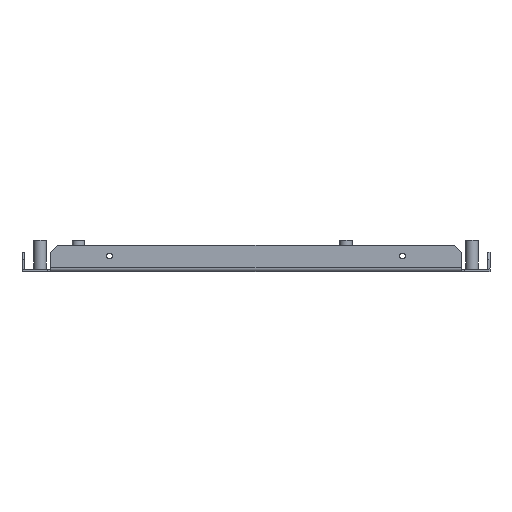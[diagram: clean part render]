
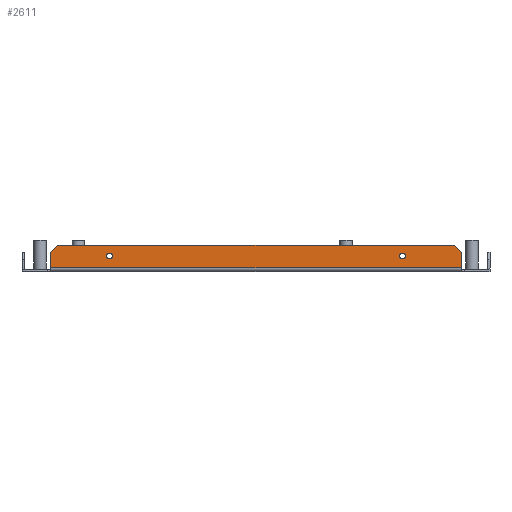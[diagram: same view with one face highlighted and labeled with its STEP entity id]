
A CAD part, front view. The second image highlights one B-rep face of the part: STEP entity #2611.
In plain terms, the highlighted planar face has unit normal (0, -1, 0).
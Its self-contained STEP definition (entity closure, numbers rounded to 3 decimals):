
#682=DIRECTION('',(-0.707,0.,-0.707));
#683=VECTOR('',#682,4.243);
#684=CARTESIAN_POINT('',(-82.5,-69.75,-3.598));
#685=LINE('',#684,#683);
#686=DIRECTION('',(-0.707,0.,0.707));
#687=VECTOR('',#686,4.243);
#688=CARTESIAN_POINT('',(85.5,-69.75,-6.598));
#689=LINE('',#688,#687);
#690=DIRECTION('',(-1.,0.,0.));
#691=VECTOR('',#690,171.);
#692=CARTESIAN_POINT('',(85.5,-69.75,-13.098));
#693=LINE('',#692,#691);
#694=CARTESIAN_POINT('',(-61.,-69.75,-8.098));
#695=DIRECTION('',(0.,1.,0.));
#696=DIRECTION('',(-1.,0.,0.));
#697=AXIS2_PLACEMENT_3D('',#694,#695,#696);
#699=CARTESIAN_POINT('',(-61.,-69.75,-8.098));
#700=DIRECTION('',(0.,1.,0.));
#701=DIRECTION('',(1.,0.,0.));
#702=AXIS2_PLACEMENT_3D('',#699,#700,#701);
#704=CARTESIAN_POINT('',(61.,-69.75,-8.098));
#705=DIRECTION('',(0.,1.,0.));
#706=DIRECTION('',(-1.,0.,0.));
#707=AXIS2_PLACEMENT_3D('',#704,#705,#706);
#709=CARTESIAN_POINT('',(61.,-69.75,-8.098));
#710=DIRECTION('',(0.,1.,0.));
#711=DIRECTION('',(1.,0.,0.));
#712=AXIS2_PLACEMENT_3D('',#709,#710,#711);
#735=DIRECTION('',(0.,0.,1.));
#736=VECTOR('',#735,6.5);
#737=CARTESIAN_POINT('',(85.5,-69.75,-13.098));
#738=LINE('',#737,#736);
#779=DIRECTION('',(0.,0.,-1.));
#780=VECTOR('',#779,6.5);
#781=CARTESIAN_POINT('',(-85.5,-69.75,-6.598));
#782=LINE('',#781,#780);
#834=DIRECTION('',(-1.,0.,0.));
#835=VECTOR('',#834,165.);
#836=CARTESIAN_POINT('',(82.5,-69.75,-3.598));
#837=LINE('',#836,#835);
#1442=CARTESIAN_POINT('',(-85.5,-69.75,-13.098));
#1444=VERTEX_POINT('',#1442);
#1445=CARTESIAN_POINT('',(85.5,-69.75,-13.098));
#1446=VERTEX_POINT('',#1445);
#1505=CARTESIAN_POINT('',(-82.5,-69.75,-3.598));
#1506=CARTESIAN_POINT('',(-85.5,-69.75,-6.598));
#1507=VERTEX_POINT('',#1505);
#1508=VERTEX_POINT('',#1506);
#1517=CARTESIAN_POINT('',(85.5,-69.75,-6.598));
#1518=VERTEX_POINT('',#1517);
#1519=CARTESIAN_POINT('',(82.5,-69.75,-3.598));
#1520=VERTEX_POINT('',#1519);
#1521=CARTESIAN_POINT('',(-62.25,-69.75,-8.098));
#1522=CARTESIAN_POINT('',(-59.75,-69.75,-8.098));
#1523=VERTEX_POINT('',#1521);
#1524=VERTEX_POINT('',#1522);
#1525=CARTESIAN_POINT('',(59.75,-69.75,-8.098));
#1526=CARTESIAN_POINT('',(62.25,-69.75,-8.098));
#1527=VERTEX_POINT('',#1525);
#1528=VERTEX_POINT('',#1526);
#2580=CARTESIAN_POINT('',(97.5,-69.75,-14.598));
#2581=DIRECTION('',(0.,-1.,0.));
#2582=DIRECTION('',(-1.,0.,0.));
#2583=AXIS2_PLACEMENT_3D('',#2580,#2581,#2582);
#2584=PLANE('',#2583);
#2586=ORIENTED_EDGE('',*,*,#2585,.F.);
#2588=ORIENTED_EDGE('',*,*,#2587,.F.);
#2590=ORIENTED_EDGE('',*,*,#2589,.F.);
#2592=ORIENTED_EDGE('',*,*,#2591,.F.);
#2594=ORIENTED_EDGE('',*,*,#2593,.T.);
#2596=ORIENTED_EDGE('',*,*,#2595,.F.);
#2597=EDGE_LOOP('',(#2586,#2588,#2590,#2592,#2594,#2596));
#2598=FACE_OUTER_BOUND('',#2597,.F.);
#2600=ORIENTED_EDGE('',*,*,#2599,.F.);
#2602=ORIENTED_EDGE('',*,*,#2601,.F.);
#2603=EDGE_LOOP('',(#2600,#2602));
#2604=FACE_BOUND('',#2603,.F.);
#2606=ORIENTED_EDGE('',*,*,#2605,.F.);
#2608=ORIENTED_EDGE('',*,*,#2607,.F.);
#2609=EDGE_LOOP('',(#2606,#2608));
#2610=FACE_BOUND('',#2609,.F.);
#698=CIRCLE('',#697,1.25);
#703=CIRCLE('',#702,1.25);
#708=CIRCLE('',#707,1.25);
#713=CIRCLE('',#712,1.25);
#2585=EDGE_CURVE('',#1507,#1508,#685,.T.);
#2587=EDGE_CURVE('',#1520,#1507,#837,.T.);
#2589=EDGE_CURVE('',#1518,#1520,#689,.T.);
#2591=EDGE_CURVE('',#1446,#1518,#738,.T.);
#2593=EDGE_CURVE('',#1446,#1444,#693,.T.);
#2595=EDGE_CURVE('',#1508,#1444,#782,.T.);
#2599=EDGE_CURVE('',#1523,#1524,#698,.T.);
#2601=EDGE_CURVE('',#1524,#1523,#703,.T.);
#2605=EDGE_CURVE('',#1527,#1528,#708,.T.);
#2607=EDGE_CURVE('',#1528,#1527,#713,.T.);
#2611=ADVANCED_FACE('',(#2598,#2604,#2610),#2584,.T.);
